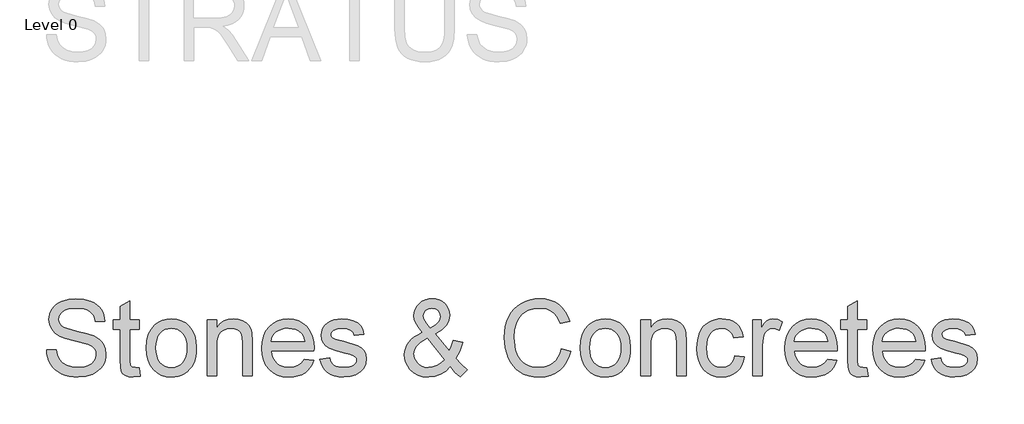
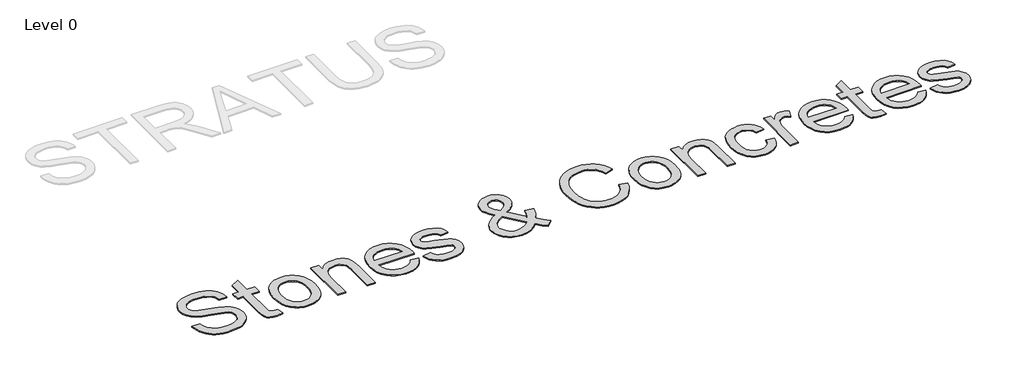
# One storey, part 6 of 12: 1 proxy.
"""IFC4 building model written with IfcOpenShell, lengths in millimetres."""

from ifc_helpers import new_model, si_unit, origin, origin_with_axes, place, context, project, spatial, polyline, outline, extrude, element, save

model = new_model("IFC4")

# Units and contexts
model_context = context("Model", 3, world=origin())
ifc_project = project(units=[si_unit("LENGTHUNIT", "METRE", prefix="MILLI")], contexts=[model_context])

# Site, building, storey
site = spatial("IfcSite", under=ifc_project)
building = spatial("IfcBuilding", under=site)
storey = spatial("IfcBuildingStorey", under=building, Name="Level 0", Elevation=0.0)

# Proxy
placement = place(None, origin())
element("IfcBuildingElementProxy", 1, Name="600mm Arial", ObjectType="600mm Arial", at=placement, inside=storey, context=model_context, shape_type="SweptSolid", body=[
    extrude(outline(polyline([(-10905.7165225, -2032.6809076), (-10830.3742899, -2032.6809076), (-10821.729063, -2074.4906964), (-10806.0940782, -2108.0967167), (-10781.7035019, -2134.7681613), (-10746.7915006, -2155.7742232), (-10704.1171891, -2169.4042512), (-10656.4396825, -2173.9475938), (-10614.4643469, -2170.5078971), (-10577.7129356, -2160.1888072), (-10547.9328881, -2143.8548466), (-10526.8716438, -2122.3705381), (-10514.3452619, -2097.7040503), (-10510.1698013, -2071.8235519), (-10513.2967982, -2046.6052412), (-10522.6777891, -2024.8082329), (-10541.7340764, -2006.2117981), (-10573.8869628, -1990.5952074), (-10683.5893738, -1961.8268354), (-10755.6022743, -1942.7889421), (-10801.6794942, -1924.6707539), (-10839.1850636, -1899.3236844), (-10865.7645378, -1868.6055378), (-10881.6018577, -1833.1785017), (-10886.8809643, -1793.7047636), (-10885.248488, -1771.2685604), (-10880.3510589, -1749.5773183), (-10872.1886771, -1728.6310372), (-10860.7613427, -1708.4297171), (-10846.1978142, -1689.796494), (-10828.6268504, -1673.554504), (-10808.0484513, -1659.7037468), (-10784.4626169, -1648.2442227), (-10731.4508214, -1632.8483612), (-10672.7736431, -1627.7164074), (-10609.2036344, -1633.0874845), (-10553.5798767, -1649.2007159), (-10529.2444827, -1661.202866), (-10507.8889329, -1675.7250077), (-10489.5132272, -1692.7671412), (-10474.1173657, -1712.3292662), (-10461.82091, -1733.8411659), (-10452.7434218, -1756.7326231), (-10446.884901, -1781.0036377), (-10444.2453477, -1806.6542098), (-10519.5875803, -1806.6542098), (-10524.6275637, -1782.6131214), (-10533.4199434, -1761.69903), (-10545.9647194, -1743.9119355), (-10562.2618918, -1729.251838), (-10582.6149632, -1717.7923139), (-10607.3274362, -1709.6069395), (-10636.3993109, -1704.6957148), (-10669.8305872, -1703.05864), (-10704.3287213, -1704.6773207), (-10733.8052661, -1709.5333631), (-10758.2602218, -1717.626767), (-10777.6935881, -1728.9575324), (-10792.5008385, -1742.5783633), (-10803.0774458, -1757.5419635), (-10809.4234102, -1773.8483329), (-10811.5387317, -1791.4974716), (-10810.0396126, -1806.681801), (-10805.5422552, -1820.4497846), (-10798.0466595, -1832.8014226), (-10787.5528256, -1843.7367149), (-10771.034924, -1854.0925931), (-10745.025667, -1864.5588358), (-10664.5330864, -1885.8224152), (-10581.4653319, -1906.0191367), (-10531.2126514, -1923.6406843), (-10488.2624284, -1950.9743165), (-10471.6571549, -1967.0415627), (-10458.2984399, -1984.7090955), (-10448.0299337, -2003.8849445), (-10440.6952865, -2024.4771392), (-10434.8275686, -2069.9105656), (-10436.5152273, -2093.4780059), (-10441.5782033, -2116.3556674), (-10450.0164965, -2138.5435503), (-10461.8301071, -2160.0416544), (-10476.8121013, -2180.0176467), (-10494.7555457, -2197.6391943), (-10515.66044, -2212.9062971), (-10539.5267845, -2225.8189551), (-10565.6602017, -2236.0874613), (-10593.3663145, -2243.4221086), (-10653.4966266, -2249.2898264), (-10692.0368641, -2247.7079338), (-10727.3121489, -2242.9622561), (-10759.322481, -2235.0527932), (-10788.0678604, -2223.9795451), (-10813.7230311, -2209.7241178), (-10836.4627369, -2192.2681172), (-10856.2869779, -2171.6115431), (-10873.1957541, -2147.7543957), (-10886.816585, -2121.4692272), (-10896.77699, -2093.5285896), (-10903.0769692, -2063.9324831), (-10905.7165225, -2032.6809076)])), origin_with_axes(), (0.0, 0.0, 1.0), 10.0),
    extrude(outline(polyline([(-10171.1297545, -2177.0378026), (-10161.7119754, -2242.0793393), (-10218.0714971, -2249.2898264), (-10254.2342972, -2246.1628294), (-10281.2000475, -2236.7818386), (-10300.2563348, -2222.3240762), (-10312.6907462, -2203.9667646), (-10319.5333514, -2172.4392776), (-10321.8142197, -2118.4709889), (-10321.8142197, -1872.5786633), (-10378.3208942, -1872.5786633), (-10378.3208942, -1797.2364307), (-10321.8142197, -1797.2364307), (-10321.8142197, -1689.6677353), (-10246.4719871, -1645.3747431), (-10246.4719871, -1797.2364307), (-10171.1297545, -1797.2364307), (-10171.1297545, -1872.5786633), (-10246.4719871, -1872.5786633), (-10246.4719871, -2116.2636969), (-10242.4988616, -2155.1120356), (-10229.6229917, -2168.8708223), (-10218.7520788, -2172.6784009), (-10203.9448285, -2173.9475938), (-10171.1297545, -2177.0378026)])), origin_with_axes(), (0.0, 0.0, 1.0), 10.0),
    extrude(outline(polyline([(-10114.62308, -2018.554239), (-10110.5487869, -1961.2290271), (-10098.3259077, -1911.8316722), (-10077.9544422, -1870.3621743), (-10049.4343905, -1836.8205334), (-10020.7212008, -1815.3822101), (-9989.0281669, -1800.0691221), (-9954.3552888, -1790.8812693), (-9916.7025666, -1787.8186517), (-9875.1364997, -1791.5480554), (-9837.5527554, -1802.7362666), (-9803.9513336, -1821.3832852), (-9774.3322345, -1847.4891113), (-9750.1577889, -1880.170828), (-9732.8903277, -1918.5455186), (-9722.5298511, -1962.6131831), (-9719.0763588, -2012.3738215), (-9720.6030691, -2052.7028852), (-9725.1831999, -2088.4886063), (-9732.8167513, -2119.7309848), (-9743.5037233, -2146.4300206), (-9757.1107586, -2169.4916231), (-9773.5045, -2189.8217019), (-9792.6849475, -2207.4202568), (-9814.6521012, -2222.287288), (-9838.5506353, -2234.1008985), (-9863.5252242, -2242.5391918), (-9889.575868, -2247.6021678), (-9916.7025666, -2249.2898264), (-9958.8756389, -2245.5742183), (-9996.8088711, -2234.4273938), (-10030.5022633, -2215.849353), (-10059.9558156, -2189.840096), (-10083.8727438, -2156.841081), (-10100.9562639, -2117.2937665), (-10111.206376, -2071.1981525), (-10114.62308, -2018.554239)]), holes=[polyline([(-10039.2808474, -2018.4070862), (-10037.1011466, -2054.9515639), (-10030.5620441, -2086.594014), (-10019.66354, -2113.3344366), (-10004.4056343, -2135.1728315), (-9985.8459876, -2152.13679), (-9965.0422608, -2164.2539032), (-9941.9944538, -2171.5241711), (-9916.7025666, -2173.9475938), (-9891.5394382, -2171.5103756), (-9868.5836017, -2164.1987209), (-9847.8350571, -2152.0126298), (-9829.2938046, -2134.9521023), (-9814.0358988, -2112.8975767), (-9803.1373947, -2085.7294913), (-9796.5982923, -2053.4478463), (-9794.4185914, -2016.0526415), (-9796.6120878, -1980.6669921), (-9803.192577, -1949.8522764), (-9814.160059, -1923.6084946), (-9829.5145338, -1901.9356466), (-9848.1247642, -1884.9716881), (-9868.8595132, -1872.8545748), (-9891.7187806, -1865.5843069), (-9916.7025666, -1863.1608843), (-9941.9944538, -1865.5751099), (-9965.0422608, -1872.8177866), (-9985.8459876, -1884.8889146), (-10004.4056343, -1901.7884938), (-10019.66354, -1923.5625094), (-10030.5620441, -1950.2569466), (-10037.1011466, -1981.8718056), (-10039.2808474, -2018.4070862)])]), origin_with_axes(), (0.0, 0.0, 1.0), 10.0),
    extrude(outline(polyline([(-9634.3163471, -2239.8720473), (-9634.3163471, -1797.2364307), (-9558.9741145, -1797.2364307), (-9558.9741145, -1859.0406059), (-9532.7993106, -1827.8810009), (-9501.3637941, -1805.6241402), (-9464.6675651, -1792.2700238), (-9422.7106235, -1787.8186517), (-9385.5729361, -1791.4055011), (-9351.5622456, -1802.1660495), (-9323.1985438, -1818.7575275), (-9303.0018223, -1839.8371658), (-9289.298218, -1865.3497821), (-9280.4138678, -1895.2401942), (-9276.4407422, -1968.0808293), (-9276.4407422, -2239.8720473), (-9351.7829748, -2239.8720473), (-9351.7829748, -1978.2343724), (-9353.9534786, -1939.2756691), (-9360.4649899, -1911.5741548), (-9372.4763371, -1891.7269212), (-9391.1463483, -1876.3310597), (-9415.0770721, -1866.4534281), (-9442.8705568, -1863.1608843), (-9465.7482184, -1865.0094913), (-9486.9980022, -1870.5553124), (-9506.6199081, -1879.7983475), (-9524.6139362, -1892.7385967), (-9539.6465142, -1910.8475879), (-9550.3840699, -1935.5968491), (-9556.8266034, -1966.9863804), (-9558.9741145, -2005.0161816), (-9558.9741145, -2239.8720473), (-9634.3163471, -2239.8720473)])), origin_with_axes(), (0.0, 0.0, 1.0), 10.0),
    extrude(outline(polyline([(-8862.9413797, -2108.0231403), (-8789.070675, -2117.4409193), (-8800.3968419, -2147.0278288), (-8815.6869374, -2173.1014652), (-8834.9409613, -2195.6618286), (-8858.1589137, -2214.7089189), (-8885.1016713, -2229.8380659), (-8915.5301109, -2240.6445995), (-8949.4442323, -2247.1285197), (-8986.8440356, -2249.2898264), (-9033.5926402, -2245.5604227), (-9075.2460791, -2234.3722115), (-9111.8043523, -2215.7251929), (-9143.26746, -2189.6193668), (-9168.5685442, -2156.7813002), (-9186.6407472, -2117.93756), (-9197.484069, -2073.0881463), (-9201.0985096, -2022.233059), (-9197.4472808, -1969.6535248), (-9186.4935944, -1923.3095905), (-9168.2374504, -1883.201256), (-9142.6788488, -1849.3285212), (-9111.2985146, -1822.4179533), (-9075.5771729, -1803.1961191), (-9035.5148236, -1791.6630185), (-8991.1114668, -1787.8186517), (-8948.1382512, -1791.6538215), (-8909.2761169, -1803.1593309), (-8874.525064, -1822.3351799), (-8843.8850923, -1849.1813685), (-8818.8737152, -1882.9805268), (-8801.0084458, -1923.0152849), (-8790.2892841, -1969.2856428), (-8786.7162303, -2021.7916006), (-8787.1576886, -2042.0986867), (-9125.756277, -2042.0986867), (-9121.3922768, -2072.1638428), (-9112.7148603, -2098.4949966), (-9099.7240273, -2121.0921481), (-9082.419778, -2139.9552974), (-9061.7586054, -2154.8269271), (-9038.6970028, -2165.4495197), (-9013.2349703, -2171.8230753), (-8985.3725076, -2173.9475938), (-8945.2733702, -2170.0112564), (-8911.501803, -2158.2022444), (-8884.0578062, -2137.7847937), (-8862.9413797, -2108.0231403)]), holes=[polyline([(-9125.756277, -1966.7564541), (-8862.0584629, -1966.7564541), (-8872.2487941, -1926.9516222), (-8881.0135827, -1911.2982433), (-8892.2247865, -1898.4775558), (-8912.7709959, -1883.026512), (-8936.1498967, -1871.9900522), (-8962.3614888, -1865.3681762), (-8991.4057724, -1863.1608843), (-9017.8978745, -1864.9221193), (-9042.1918818, -1870.2058245), (-9064.2877941, -1879.0119997), (-9084.1856116, -1891.3406451), (-9100.8828556, -1906.6215435), (-9113.3770479, -1924.2844778), (-9121.6681883, -1944.329448), (-9125.756277, -1966.7564541)])]), origin_with_axes(), (0.0, 0.0, 1.0), 10.0),
    extrude(outline(polyline([(-8739.6273349, -2108.0231403), (-8664.2851023, -2098.6053612), (-8659.7325626, -2115.7854504), (-8652.4025138, -2130.831824), (-8642.294956, -2143.744482), (-8629.4098891, -2154.5234244), (-8613.710525, -2163.0214985), (-8595.1600754, -2169.0915515), (-8549.5059198, -2173.9475938), (-8504.4035872, -2169.4962217), (-8486.8740101, -2163.9320065), (-8472.6921592, -2156.1421052), (-8453.9301774, -2136.7915123), (-8449.239682, -2125.9573875), (-8447.6761835, -2114.3507106), (-8449.248879, -2104.1787734), (-8453.9669656, -2095.1472704), (-8472.839312, -2080.505567), (-8501.055861, -2070.9406351), (-8550.3888366, -2059.0212585), (-8619.1459814, -2039.1372367), (-8663.8436439, -2022.1594826), (-8692.5568336, -2003.6366241), (-8713.3605604, -1979.1172891), (-8725.9973069, -1950.1649761), (-8730.2095558, -1918.3431835), (-8726.8250414, -1889.1517472), (-8716.6714984, -1862.2043911), (-8700.6686316, -1838.5679729), (-8679.7361461, -1819.3093504), (-8658.9324192, -1807.1876387), (-8631.8379103, -1797.0157015), (-8600.5127584, -1790.1179141), (-8567.0171027, -1787.8186517), (-8517.9784328, -1791.5158657), (-8475.3409095, -1802.6075079), (-8441.0543076, -1820.0083262), (-8417.0684015, -1842.6330689), (-8401.1758993, -1872.155599), (-8391.169509, -1910.2497797), (-8466.5117417, -1919.6675587), (-8476.0214912, -1895.9575641), (-8494.8386553, -1878.0968933), (-8523.1471748, -1866.8948865), (-8561.1309908, -1863.1608843), (-8604.3939134, -1866.7293396), (-8633.2358619, -1877.4347057), (-8649.4594579, -1892.8857495), (-8654.8673232, -1910.691238), (-8652.623243, -1922.2795209), (-8645.8910025, -1932.617005), (-8634.376296, -1941.850843), (-8617.7848181, -1949.2452711), (-8552.8904341, -1965.2849261), (-8442.3051064, -2000.7487505), (-8413.095276, -2017.7081104), (-8390.9487798, -2040.9214643), (-8376.9876581, -2070.4623885), (-8372.3339509, -2106.4044595), (-8377.7969985, -2143.560541), (-8394.1861414, -2178.5093305), (-8420.8759801, -2208.5101072), (-8457.2411154, -2230.8221502), (-8501.1662256, -2244.6729074), (-8550.5359893, -2249.2898264), (-8591.0857823, -2247.0641403), (-8626.5036214, -2240.3870821), (-8656.7895066, -2229.2586518), (-8681.943438, -2213.6788493), (-8702.4896475, -2193.721251), (-8718.9523667, -2169.4594335), (-8731.3315959, -2140.8933965), (-8739.6273349, -2108.0231403)])), origin_with_axes(), (0.0, 0.0, 1.0), 10.0),
    extrude(outline(polyline([(-7706.4675396, -2165.4127315), (-7744.7640553, -2202.1089605), (-7786.371509, -2228.3205527), (-7831.363477, -2244.047508), (-7879.8135357, -2249.2898264), (-7923.7754342, -2245.4086714), (-7962.9548667, -2233.7652062), (-7997.3518332, -2214.359431), (-8026.9663338, -2187.1913456), (-8046.2157592, -2161.1361033), (-8059.9653488, -2133.5909389), (-8068.2151025, -2104.5558525), (-8070.9650204, -2074.0308439), (-8068.7531299, -2046.9639261), (-8062.1174585, -2021.2397776), (-8051.058006, -1996.8583984), (-8035.5747725, -1973.8197884), (-8015.6953492, -1952.1331448), (-7991.4473272, -1931.8076646), (-7962.8307065, -1912.8433477), (-7929.8454871, -1895.2401942), (-7962.7157434, -1852.7130356), (-7982.4526124, -1819.0150448), (-7992.330244, -1790.2466728), (-7995.6227878, -1762.5083704), (-7993.0292198, -1736.1772166), (-7985.2485156, -1711.6302905), (-7972.2806752, -1688.867592), (-7954.1256988, -1667.8891212), (-7932.043582, -1650.3135589), (-7907.2943208, -1637.7595858), (-7879.8779151, -1630.227202), (-7849.7943649, -1627.7164074), (-7821.0719782, -1630.1168374), (-7795.0903123, -1637.3181274), (-7771.8493672, -1649.3202775), (-7751.349143, -1666.1232877), (-7734.6105122, -1686.292418), (-7722.6543474, -1708.3929289), (-7715.4806485, -1732.4248202), (-7713.0894155, -1758.388092), (-7714.8598476, -1779.771233), (-7720.1711439, -1800.3634277), (-7729.0233044, -1820.1646761), (-7741.4163292, -1839.1749782), (-7776.8249712, -1874.8227435), (-7826.39707, -1907.3067237), (-7717.3568467, -2043.1287563), (-7698.7788059, -2004.3172058), (-7684.8360783, -1959.6931198), (-7609.4938457, -1976.0270804), (-7632.6704114, -2045.8142949), (-7646.8522623, -2074.8861695), (-7662.7631586, -2100.0768892), (-7619.9416943, -2150.0352641), (-7571.8227294, -2191.311624), (-7628.3294038, -2249.2898264), (-7666.7730723, -2214.1203077), (-7706.4675396, -2165.4127315)]), holes=[polyline([(-7864.5096447, -1859.7763699), (-7825.1094831, -1834.7787883), (-7802.5583168, -1813.0553565), (-7791.9633153, -1791.9205359), (-7788.4316481, -1768.6887879), (-7793.0853554, -1742.3668312), (-7807.0464771, -1721.3791633), (-7827.9973567, -1707.6387708), (-7853.6203377, -1703.05864), (-7879.7951416, -1707.6019826), (-7901.2242679, -1721.2320105), (-7915.5164834, -1741.410338), (-7920.2805552, -1765.5985791), (-7913.8058321, -1793.1897288), (-7894.23451, -1823.8710872), (-7864.5096447, -1859.7763699)]), polyline([(-7756.9409494, -2111.113349), (-7891.4386068, -1943.2120064), (-7942.8133274, -1975.9902922), (-7974.2120557, -2006.3405568), (-7990.2701048, -2035.329658), (-7995.6227878, -2064.0244536), (-7993.7925749, -2081.6276071), (-7988.3019361, -2099.5618544), (-7966.339381, -2136.4236303), (-7950.1709673, -2152.8403643), (-7930.9491331, -2164.5666029), (-7908.6738783, -2171.6023461), (-7883.3452029, -2173.9475938), (-7849.260936, -2169.5697981), (-7814.1098114, -2156.4364108), (-7781.9753191, -2136.3500539), (-7756.9409494, -2111.113349)])]), origin_with_axes(), (0.0, 0.0, 1.0), 10.0),
    extrude(outline(polyline([(-6827.8181823, -2025.6175733), (-6752.4759497, -2045.0417427), (-6767.3843676, -2091.8961133), (-6787.2407983, -2132.8367808), (-6812.0452418, -2167.8637453), (-6841.7976982, -2196.9770067), (-6875.8267827, -2219.8638653), (-6913.4611108, -2236.2116215), (-6954.7006825, -2246.0202752), (-6999.5454977, -2249.2898264), (-7045.4893604, -2246.81582), (-7086.9358656, -2239.3938007), (-7123.8850135, -2227.0237686), (-7156.336804, -2209.7057237), (-7184.7372941, -2187.6971834), (-7209.5325405, -2161.255665), (-7230.7225435, -2130.3811685), (-7248.3073028, -2095.073694), (-7262.1166732, -2056.8599518), (-7271.9805092, -2017.266652), (-7277.8988108, -1976.2937948), (-7279.871578, -1933.9413801), (-7277.6412934, -1888.4987567), (-7270.9504396, -1846.0543715), (-7259.7990166, -1806.6082246), (-7244.1870245, -1770.1603159), (-7224.463951, -1737.3130522), (-7200.9792841, -1708.6688404), (-7173.7330239, -1684.2276803), (-7142.7251702, -1663.9895721), (-7109.0087853, -1648.1200625), (-7073.6369315, -1636.7846985), (-7036.6096087, -1629.9834801), (-6997.9268169, -1627.7164074), (-6954.8340397, -1630.6502663), (-6915.3189149, -1639.451843), (-6879.3814425, -1654.1211376), (-6847.0216225, -1674.6581499), (-6818.7728838, -1700.5202542), (-6795.1686553, -1731.1648244), (-6776.2089369, -1766.5918605), (-6761.8937288, -1806.8013626), (-6837.2359614, -1824.754004), (-6849.1001558, -1795.1257078), (-6863.3555831, -1769.810828), (-6880.0022434, -1748.8093646), (-6899.0401366, -1732.1213176), (-6920.5796274, -1719.4063961), (-6944.7310804, -1710.3243094), (-6971.4944956, -1704.8750573), (-7000.8698729, -1703.05864), (-7034.6690312, -1705.0727939), (-7065.5803158, -1711.1152557), (-7093.6037268, -1721.1860253), (-7118.7392641, -1735.2851027), (-7140.6696296, -1752.7778916), (-7159.0775249, -1773.0297954), (-7173.9629501, -1796.0408142), (-7185.3259052, -1821.810948), (-7199.7284854, -1876.9564591), (-7204.5293454, -1933.7942273), (-7198.8455686, -2003.3975008), (-7191.7408475, -2034.6674704), (-7181.7942381, -2063.5829952), (-7168.8447919, -2089.5692597), (-7152.7315605, -2112.0514481), (-7133.4545439, -2131.0295605), (-7111.0137422, -2146.503597), (-7086.4990058, -2158.5103456), (-7061.000185, -2167.0865946), (-7034.5172798, -2172.232344), (-7007.0502904, -2173.9475938), (-6974.2949972, -2171.6115431), (-6944.1608633, -2164.6033911), (-6916.6478886, -2152.9231378), (-6891.7560731, -2136.5707831), (-6870.074028, -2115.6199035), (-6852.1903645, -2090.1440753), (-6838.1050826, -2060.1432986), (-6827.8181823, -2025.6175733)])), origin_with_axes(), (0.0, 0.0, 1.0), 10.0),
    extrude(outline(polyline([(-6677.1337171, -2018.554239), (-6673.059424, -1961.2290271), (-6660.8365447, -1911.8316722), (-6640.4650792, -1870.3621743), (-6611.9450276, -1836.8205334), (-6583.2318378, -1815.3822101), (-6551.538804, -1800.0691221), (-6516.8659259, -1790.8812693), (-6479.2132037, -1787.8186517), (-6437.6471368, -1791.5480554), (-6400.0633924, -1802.7362666), (-6366.4619707, -1821.3832852), (-6336.8428716, -1847.4891113), (-6312.668426, -1880.170828), (-6295.4009648, -1918.5455186), (-6285.0404881, -1962.6131831), (-6281.5869959, -2012.3738215), (-6283.1137062, -2052.7028852), (-6287.693837, -2088.4886063), (-6295.3273884, -2119.7309848), (-6306.0143604, -2146.4300206), (-6319.6213957, -2169.4916231), (-6336.0151371, -2189.8217019), (-6355.1955846, -2207.4202568), (-6377.1627382, -2222.287288), (-6401.0612724, -2234.1008985), (-6426.0358613, -2242.5391918), (-6452.0865051, -2247.6021678), (-6479.2132037, -2249.2898264), (-6521.3862759, -2245.5742183), (-6559.3195082, -2234.4273938), (-6593.0129004, -2215.849353), (-6622.4664526, -2189.840096), (-6646.3833808, -2156.841081), (-6663.466901, -2117.2937665), (-6673.7170131, -2071.1981525), (-6677.1337171, -2018.554239)]), holes=[polyline([(-6601.7914845, -2018.4070862), (-6599.6117837, -2054.9515639), (-6593.0726812, -2086.594014), (-6582.1741771, -2113.3344366), (-6566.9162714, -2135.1728315), (-6548.3566247, -2152.13679), (-6527.5528979, -2164.2539032), (-6504.5050909, -2171.5241711), (-6479.2132037, -2173.9475938), (-6454.0500752, -2171.5103756), (-6431.0942387, -2164.1987209), (-6410.3456942, -2152.0126298), (-6391.8044417, -2134.9521023), (-6376.5465359, -2112.8975767), (-6365.6480318, -2085.7294913), (-6359.1089293, -2053.4478463), (-6356.9292285, -2016.0526415), (-6359.1227249, -1980.6669921), (-6365.7032141, -1949.8522764), (-6376.6706961, -1923.6084946), (-6392.0251708, -1901.9356466), (-6410.6354013, -1884.9716881), (-6431.3701502, -1872.8545748), (-6454.2294177, -1865.5843069), (-6479.2132037, -1863.1608843), (-6504.5050909, -1865.5751099), (-6527.5528979, -1872.8177866), (-6548.3566247, -1884.8889146), (-6566.9162714, -1901.7884938), (-6582.1741771, -1923.5625094), (-6593.0726812, -1950.2569466), (-6599.6117837, -1981.8718056), (-6601.7914845, -2018.4070862)])]), origin_with_axes(), (0.0, 0.0, 1.0), 10.0),
    extrude(outline(polyline([(-6196.8269842, -2239.8720473), (-6196.8269842, -1797.2364307), (-6121.4847516, -1797.2364307), (-6121.4847516, -1859.0406059), (-6095.3099476, -1827.8810009), (-6063.8744312, -1805.6241402), (-6027.1782021, -1792.2700238), (-5985.2212606, -1787.8186517), (-5948.0835732, -1791.4055011), (-5914.0728827, -1802.1660495), (-5885.7091809, -1818.7575275), (-5865.5124594, -1839.8371658), (-5851.808855, -1865.3497821), (-5842.9245048, -1895.2401942), (-5838.9513793, -1968.0808293), (-5838.9513793, -2239.8720473), (-5914.2936119, -2239.8720473), (-5914.2936119, -1978.2343724), (-5916.4641157, -1939.2756691), (-5922.975627, -1911.5741548), (-5934.9869741, -1891.7269212), (-5953.6569854, -1876.3310597), (-5977.5877092, -1866.4534281), (-6005.3811939, -1863.1608843), (-6028.2588555, -1865.0094913), (-6049.5086392, -1870.5553124), (-6069.1305452, -1879.7983475), (-6087.1245732, -1892.7385967), (-6102.1571513, -1910.8475879), (-6112.894707, -1935.5968491), (-6119.3372404, -1966.9863804), (-6121.4847516, -2005.0161816), (-6121.4847516, -2239.8720473), (-6196.8269842, -2239.8720473)])), origin_with_axes(), (0.0, 0.0, 1.0), 10.0),
    extrude(outline(polyline([(-5452.8224372, -2079.769803), (-5377.4802045, -2089.1875821), (-5385.674776, -2124.7387784), (-5398.4862665, -2156.1972875), (-5415.914676, -2183.5631094), (-5437.9600046, -2206.8362442), (-5463.6933501, -2225.4096864), (-5492.1858106, -2238.6764308), (-5523.4373861, -2246.6364775), (-5557.4480766, -2249.2898264), (-5599.7039223, -2245.5880138), (-5637.5911692, -2234.4825761), (-5671.1098175, -2215.9735132), (-5700.2598671, -2190.0608252), (-5723.8548986, -2157.2319556), (-5740.7084925, -2117.9743482), (-5750.8206488, -2072.288003), (-5754.1913676, -2020.1729198), (-5748.4340144, -1953.1264262), (-5741.2373229, -1922.9555041), (-5731.1619547, -1895.0194651), (-5718.1389321, -1869.8793292), (-5702.0992771, -1848.0961166), (-5683.0429897, -1829.6698271), (-5660.97007, -1814.6004609), (-5636.8783979, -1802.8834194), (-5611.7658532, -1794.514104), (-5585.6324359, -1789.4925147), (-5558.4781462, -1787.8186517), (-5525.0514684, -1790.1179141), (-5494.8161669, -1797.0157015), (-5467.7722417, -1808.5120139), (-5443.9196929, -1824.6068512), (-5423.6631905, -1844.9323314), (-5407.4074049, -1869.1205726), (-5395.1523359, -1897.1715747), (-5386.8979836, -1929.0853378), (-5462.2402162, -1938.5031169), (-5475.9070324, -1905.6328606), (-5497.1890058, -1882.0700188), (-5524.9089141, -1867.8881679), (-5557.889535, -1863.1608843), (-5583.4895233, -1865.4877379), (-5606.578717, -1872.4682987), (-5627.1571162, -1884.1025668), (-5645.2247206, -1900.3905422), (-5659.9354019, -1921.7093038), (-5670.4430314, -1948.4359307), (-5676.7476091, -1980.570423), (-5678.849135, -2018.1127806), (-5676.7935944, -2056.2207568), (-5670.6269724, -2088.7277296), (-5660.3492692, -2115.633699), (-5645.9604846, -2136.9386651), (-5628.2515651, -2153.1300714), (-5608.0134568, -2164.6953616), (-5585.2461599, -2171.6345357), (-5559.9496742, -2173.9475938), (-5520.9357886, -2168.1718465), (-5504.0638006, -2160.9521623), (-5488.9484491, -2150.8446045), (-5476.0127984, -2137.7388084), (-5465.6799129, -2121.5244095), (-5457.9497925, -2102.2014077), (-5452.8224372, -2079.769803)])), origin_with_axes(), (0.0, 0.0, 1.0), 10.0),
    extrude(outline(polyline([(-5311.555751, -2239.8720473), (-5311.555751, -1797.2364307), (-5245.6312975, -1797.2364307), (-5245.6312975, -1862.7194259), (-5221.2775094, -1824.754004), (-5198.8367077, -1802.3867787), (-5176.3223296, -1791.4606834), (-5151.7478123, -1787.8186517), (-5114.2238488, -1793.6311872), (-5076.1112741, -1811.0687938), (-5101.2744026, -1878.6119281), (-5127.7619062, -1867.0236452), (-5154.2494099, -1863.1608843), (-5176.7453939, -1866.8764924), (-5196.8501449, -1878.0233169), (-5213.092135, -1895.755229), (-5223.9998362, -1919.2261003), (-5233.1600978, -1961.3118006), (-5236.2135184, -2007.2234736), (-5236.2135184, -2239.8720473), (-5311.555751, -2239.8720473)])), origin_with_axes(), (0.0, 0.0, 1.0), 10.0),
    extrude(outline(polyline([(-4719.118586, -2108.0231403), (-4645.2478814, -2117.4409193), (-4656.5740483, -2147.0278288), (-4671.8641437, -2173.1014652), (-4691.1181676, -2195.6618286), (-4714.33612, -2214.7089189), (-4741.2788777, -2229.8380659), (-4771.7073172, -2240.6445995), (-4805.6214386, -2247.1285197), (-4843.021242, -2249.2898264), (-4889.7698465, -2245.5604227), (-4931.4232854, -2234.3722115), (-4967.9815587, -2215.7251929), (-4999.4446663, -2189.6193668), (-5024.7457505, -2156.7813002), (-5042.8179535, -2117.93756), (-5053.6612753, -2073.0881463), (-5057.2757159, -2022.233059), (-5053.6244871, -1969.6535248), (-5042.6708007, -1923.3095905), (-5024.4146567, -1883.201256), (-4998.8560551, -1849.3285212), (-4967.4757209, -1822.4179533), (-4931.7543792, -1803.1961191), (-4891.6920299, -1791.6630185), (-4847.2886731, -1787.8186517), (-4804.3154575, -1791.6538215), (-4765.4533233, -1803.1593309), (-4730.7022703, -1822.3351799), (-4700.0622986, -1849.1813685), (-4675.0509215, -1882.9805268), (-4657.1856521, -1923.0152849), (-4646.4664905, -1969.2856428), (-4642.8934366, -2021.7916006), (-4643.334895, -2042.0986867), (-4981.9334833, -2042.0986867), (-4977.5694832, -2072.1638428), (-4968.8920666, -2098.4949966), (-4955.9012337, -2121.0921481), (-4938.5969843, -2139.9552974), (-4917.9358117, -2154.8269271), (-4894.8742092, -2165.4495197), (-4869.4121766, -2171.8230753), (-4841.549714, -2173.9475938), (-4801.4505765, -2170.0112564), (-4767.6790093, -2158.2022444), (-4740.2350125, -2137.7847937), (-4719.118586, -2108.0231403)]), holes=[polyline([(-4981.9334833, -1966.7564541), (-4718.2356692, -1966.7564541), (-4728.4260005, -1926.9516222), (-4737.190789, -1911.2982433), (-4748.4019928, -1898.4775558), (-4768.9482022, -1883.026512), (-4792.327103, -1871.9900522), (-4818.5386952, -1865.3681762), (-4847.5829787, -1863.1608843), (-4874.0750809, -1864.9221193), (-4898.3690881, -1870.2058245), (-4920.4650005, -1879.0119997), (-4940.3628179, -1891.3406451), (-4957.0600619, -1906.6215435), (-4969.5542542, -1924.2844778), (-4977.8453947, -1944.329448), (-4981.9334833, -1966.7564541)])]), origin_with_axes(), (0.0, 0.0, 1.0), 10.0),
    extrude(outline(polyline([(-4407.4489597, -2177.0378026), (-4398.0311806, -2242.0793393), (-4454.3907023, -2249.2898264), (-4490.5535024, -2246.1628294), (-4517.5192526, -2236.7818386), (-4536.57554, -2222.3240762), (-4549.0099514, -2203.9667646), (-4555.8525565, -2172.4392776), (-4558.1334249, -2118.4709889), (-4558.1334249, -1872.5786633), (-4614.6400994, -1872.5786633), (-4614.6400994, -1797.2364307), (-4558.1334249, -1797.2364307), (-4558.1334249, -1689.6677353), (-4482.7911923, -1645.3747431), (-4482.7911923, -1797.2364307), (-4407.4489597, -1797.2364307), (-4407.4489597, -1872.5786633), (-4482.7911923, -1872.5786633), (-4482.7911923, -2116.2636969), (-4478.8180667, -2155.1120356), (-4465.9421969, -2168.8708223), (-4455.0712839, -2172.6784009), (-4440.2640336, -2173.9475938), (-4407.4489597, -2177.0378026)])), origin_with_axes(), (0.0, 0.0, 1.0), 10.0),
    extrude(outline(polyline([(-4022.2029343, -2108.0231403), (-3948.3322297, -2117.4409193), (-3959.6583966, -2147.0278288), (-3974.948492, -2173.1014652), (-3994.202516, -2195.6618286), (-4017.4204684, -2214.7089189), (-4044.363226, -2229.8380659), (-4074.7916655, -2240.6445995), (-4108.705787, -2247.1285197), (-4146.1055903, -2249.2898264), (-4192.8541948, -2245.5604227), (-4234.5076337, -2234.3722115), (-4271.065907, -2215.7251929), (-4302.5290146, -2189.6193668), (-4327.8300989, -2156.7813002), (-4345.9023019, -2117.93756), (-4356.7456237, -2073.0881463), (-4360.3600643, -2022.233059), (-4356.7088355, -1969.6535248), (-4345.7551491, -1923.3095905), (-4327.4990051, -1883.201256), (-4301.9404035, -1849.3285212), (-4270.5600693, -1822.4179533), (-4234.8387275, -1803.1961191), (-4194.7763783, -1791.6630185), (-4150.3730214, -1787.8186517), (-4107.3998059, -1791.6538215), (-4068.5376716, -1803.1593309), (-4033.7866186, -1822.3351799), (-4003.146647, -1849.1813685), (-3978.1352698, -1882.9805268), (-3960.2700004, -1923.0152849), (-3949.5508388, -1969.2856428), (-3945.9777849, -2021.7916006), (-3946.4192433, -2042.0986867), (-4285.0178317, -2042.0986867), (-4280.6538315, -2072.1638428), (-4271.9764149, -2098.4949966), (-4258.985582, -2121.0921481), (-4241.6813326, -2139.9552974), (-4221.0201601, -2154.8269271), (-4197.9585575, -2165.4495197), (-4172.4965249, -2171.8230753), (-4144.6340623, -2173.9475938), (-4104.5349248, -2170.0112564), (-4070.7633577, -2158.2022444), (-4043.3193608, -2137.7847937), (-4022.2029343, -2108.0231403)]), holes=[polyline([(-4285.0178317, -1966.7564541), (-4021.3200175, -1966.7564541), (-4031.5103488, -1926.9516222), (-4040.2751373, -1911.2982433), (-4051.4863411, -1898.4775558), (-4072.0325506, -1883.026512), (-4095.4114514, -1871.9900522), (-4121.6230435, -1865.3681762), (-4150.667327, -1863.1608843), (-4177.1594292, -1864.9221193), (-4201.4534365, -1870.2058245), (-4223.5493488, -1879.0119997), (-4243.4471662, -1891.3406451), (-4260.1444103, -1906.6215435), (-4272.6386025, -1924.2844778), (-4280.929743, -1944.329448), (-4285.0178317, -1966.7564541)])]), origin_with_axes(), (0.0, 0.0, 1.0), 10.0),
    extrude(outline(polyline([(-3898.8888895, -2108.0231403), (-3823.5466569, -2098.6053612), (-3818.9941172, -2115.7854504), (-3811.6640685, -2130.831824), (-3801.5565107, -2143.744482), (-3788.6714438, -2154.5234244), (-3772.9720796, -2163.0214985), (-3754.42163, -2169.0915515), (-3708.7674744, -2173.9475938), (-3663.6651418, -2169.4962217), (-3646.1355647, -2163.9320065), (-3631.9537138, -2156.1421052), (-3613.1917321, -2136.7915123), (-3608.5012366, -2125.9573875), (-3606.9377382, -2114.3507106), (-3608.5104337, -2104.1787734), (-3613.2285203, -2095.1472704), (-3632.1008666, -2080.505567), (-3660.3174157, -2070.9406351), (-3709.6503912, -2059.0212585), (-3778.4075361, -2039.1372367), (-3823.1051985, -2022.1594826), (-3851.8183883, -2003.6366241), (-3872.6221151, -1979.1172891), (-3885.2588616, -1950.1649761), (-3889.4711105, -1918.3431835), (-3886.0865961, -1889.1517472), (-3875.933053, -1862.2043911), (-3859.9301862, -1838.5679729), (-3838.9977007, -1819.3093504), (-3818.1939739, -1807.1876387), (-3791.0994649, -1797.0157015), (-3759.7743131, -1790.1179141), (-3726.2786574, -1787.8186517), (-3677.2399874, -1791.5158657), (-3634.6024642, -1802.6075079), (-3600.3158622, -1820.0083262), (-3576.3299562, -1842.6330689), (-3560.437454, -1872.155599), (-3550.4310637, -1910.2497797), (-3625.7732963, -1919.6675587), (-3635.2830459, -1895.9575641), (-3654.1002099, -1878.0968933), (-3682.4087295, -1866.8948865), (-3720.3925455, -1863.1608843), (-3763.6554681, -1866.7293396), (-3792.4974165, -1877.4347057), (-3808.7210125, -1892.8857495), (-3814.1288778, -1910.691238), (-3811.8847977, -1922.2795209), (-3805.1525572, -1932.617005), (-3793.6378507, -1941.850843), (-3777.0463727, -1949.2452711), (-3712.1519888, -1965.2849261), (-3601.566661, -2000.7487505), (-3572.3568306, -2017.7081104), (-3550.2103345, -2040.9214643), (-3536.2492128, -2070.4623885), (-3531.5955056, -2106.4044595), (-3537.0585532, -2143.560541), (-3553.4476961, -2178.5093305), (-3580.1375348, -2208.5101072), (-3616.50267, -2230.8221502), (-3660.4277803, -2244.6729074), (-3709.797544, -2249.2898264), (-3750.3473369, -2247.0641403), (-3785.765176, -2240.3870821), (-3816.0510613, -2229.2586518), (-3841.2049927, -2213.6788493), (-3861.7512021, -2193.721251), (-3878.2139214, -2169.4594335), (-3890.5931505, -2140.8933965), (-3898.8888895, -2108.0231403)])), origin_with_axes(), (0.0, 0.0, 1.0), 10.0),
])

save(model, "model.ifc")
